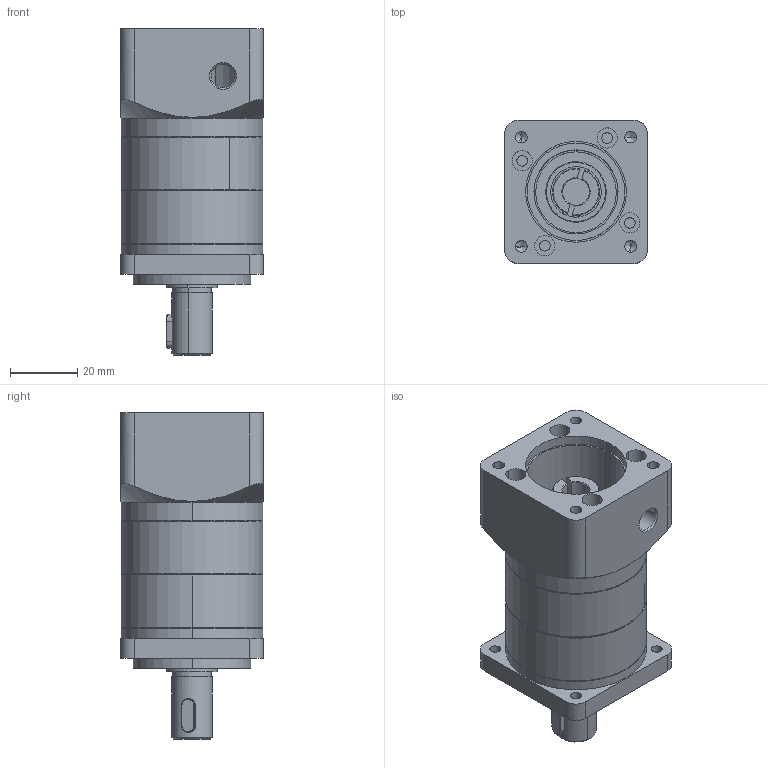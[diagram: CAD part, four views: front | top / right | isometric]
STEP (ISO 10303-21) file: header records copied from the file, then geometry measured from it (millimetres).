
FILE_DESCRIPTION (( 'STEP AP214' ), '1' );
FILE_NAME ('S42-L2.STEP', '2017-06-09T06:47:55', ( '' ), ( '' ), 'SwSTEP 2.0', 'SolidWorks 2015', '' );
FILE_SCHEMA (( 'AUTOMOTIVE_DESIGN' ));
Length unit declared in the file: millimetre
Products named in the file (8): 4x4x10; S42-ヶ屳; s42-t; S42-入力軸-8.0; S42-內齒環; 蚐猾_VC 15-25-4; S42-摽屳; S42-L2
Assembly tree (8 placements, depth 2):
  S42-L2
    S42-摽屳
    S42-內齒環  x2
    S42-ヶ屳
    S42-入力軸-8.0
    s42-t
    蚐猾_VC 15-25-4
    4x4x10
Bounding box: 42.5 x 42.5 x 97 mm (x, y, z)
Volume: 71997.3 mm3; surface area: 34058.4 mm2
Topology: 8 solids, 8 shells, 285 faces, 653 edges, 411 vertices
Faces by surface type: cylinder 133, plane 79, cone 57, bspline 16
Entity records: 8538 total; most frequent: CARTESIAN_POINT 2192, DIRECTION 1320, ORIENTED_EDGE 1190, EDGE_CURVE 595, AXIS2_PLACEMENT_3D 533, VERTEX_POINT 383, EDGE_LOOP 324, CIRCLE 277
